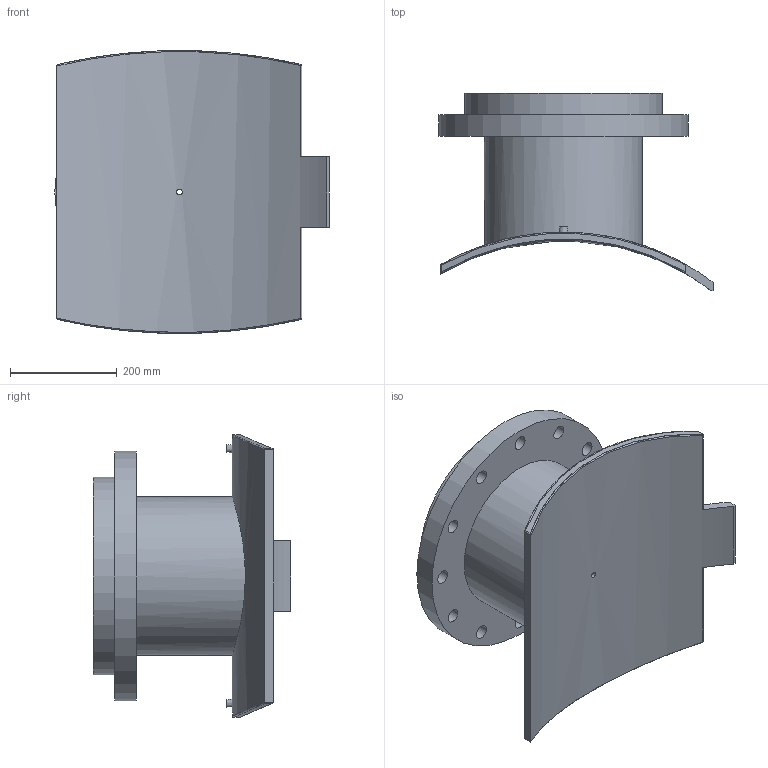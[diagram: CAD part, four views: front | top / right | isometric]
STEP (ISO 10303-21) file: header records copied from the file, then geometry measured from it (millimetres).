
FILE_DESCRIPTION(/* description */ ('PLASSON FLANGED BRANCH SADDLE 900X300'),/* implementation_level */ '2;1');
FILE_NAME(/* name */ 'C:\Dropbox\KIMPROJECTS-Inventor 2019\99-16-3568-Processing\ElectroFusion Fittings\495904_495903\stp\495903900300T.stp',/* time_stamp */ '2024-04-03T21:05:26+02:00',/* author */ ('KIM'),/* organization */ (''),/* preprocessor_version */ 'ST-DEVELOPER v17.2',/* originating_system */ 'Autodesk Inventor 2019',/* authorisation */ '');
FILE_SCHEMA (('AUTOMOTIVE_DESIGN { 1 0 10303 214 3 1 1 }'));
Length unit declared in the file: millimetre
Products named in the file (1): 495903900300T
Bounding box: 514 x 369.13 x 529.57 mm (x, y, z)
Volume: 13806502.1 mm3; surface area: 1288445.5 mm2
Topology: 1 solids, 1 shells, 62 faces, 163 edges, 126 vertices
Faces by surface type: cylinder 35, plane 17, sphere 4, bspline 4, cone 2
Full cylindrical faces by diameter (mm): 4 x2, 10 x2, 10.4 x1, 16 x1, 26 x12, 257 x1, 296 x1, 370 x1, 467 x1
Entity records: 2601 total; most frequent: CARTESIAN_POINT 973, DIRECTION 325, ORIENTED_EDGE 298, EDGE_CURVE 149, AXIS2_PLACEMENT_3D 137, VERTEX_POINT 100, EDGE_LOOP 99, CIRCLE 78
